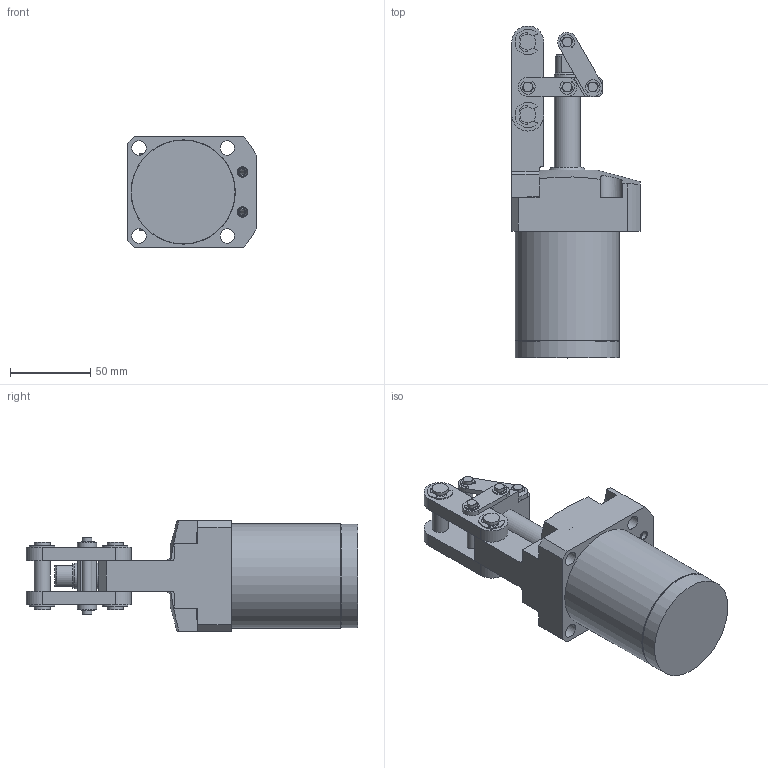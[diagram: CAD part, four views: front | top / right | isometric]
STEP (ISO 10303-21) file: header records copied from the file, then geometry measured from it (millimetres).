
FILE_DESCRIPTION( ( '' ), '1' );
FILE_NAME( 'W:/Catalogue/JLF5H/JLF5H42-44G/JLF5H42-44G.stp', '2008-05-26T02:43:11', ( '機械事業部産業機器グループ' ), ( '豊和工業株式会社' ), 'XStep 1.0', ' ', ' ' );
FILE_SCHEMA( ( 'CONFIG_CONTROL_DESIGN' ) );
Length unit declared in the file: millimetre
Products named in the file (7): Assem1; 1; 2; 3; 4; 5; 6
Bounding box: 80 x 207 x 69 mm (x, y, z)
Volume: 886368.4 mm3; surface area: 181956.1 mm2
Topology: 13 solids, 17 shells, 918 faces, 2369 edges, 1577 vertices
Faces by surface type: plane 496, cylinder 386, cone 34, torus 2
Full cylindrical faces by diameter (mm): 2 x2, 4 x20, 5 x2, 5.5 x4, 6 x32, 6.5 x4, 6.6 x2, 8 x8, 9 x8, 10 x14, 11 x4, 16 x6, 18 x2, 22 x2, 26 x4, 42 x4, 64 x2, 64.7 x2, 65 x2
Entity records: 13801 total; most frequent: CARTESIAN_POINT 2545, DIRECTION 2407, ORIENTED_EDGE 2092, EDGE_CURVE 1046, AXIS2_PLACEMENT_3D 923, VERTEX_POINT 737, EDGE_LOOP 603, LINE 561
